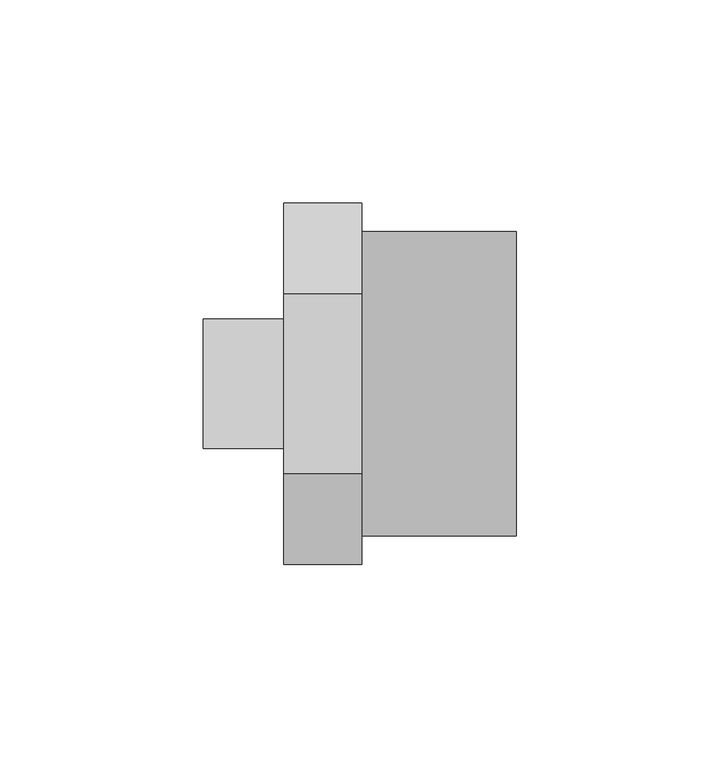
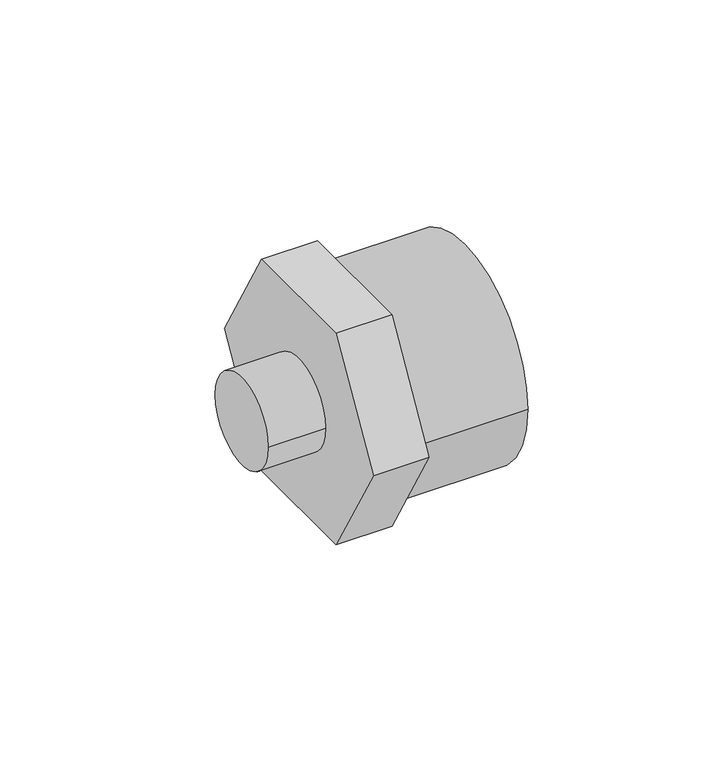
"""IFC4 building model written with IfcOpenShell, lengths in millimetres: pipe fitting geometry, 01101081 : Manguitos multiplos H/M/M."""

import ifcopenshell
import ifcopenshell.guid

model = None  # the IFC model being written
_history = None  # IfcOwnerHistory: only IFC2X3 demands one
_inside = {}  # id of a spatial element -> (the spatial element, [elements in it])
_under = {}  # id of a project, library or spatial element -> (it, [spatial elements below it])
_declared = {}  # id of a project -> (the project, [libraries it declares])
_typed = {}  # id of a type object -> (the type object, [elements of that type])
_made_of = {}  # id of a material, layer set ... -> (it, [elements and type objects made of it])


def new_model(schema):
    """Start an empty IFC model of exactly this schema.

    Asked for "IFC4X3", IfcOpenShell would pick the latest addendum, in which some entities
    have other attributes; the version numbers below select the first issue.
    IFC2X3 requires an IfcOwnerHistory on every rooted entity: one is made here for all.
    """
    global model, _history
    if schema == "IFC4X3":
        model = ifcopenshell.file(schema_version=(4, 3, 0, 0))
    else:
        model = ifcopenshell.file(schema=schema)
    _inside.clear()
    _under.clear()
    _declared.clear()
    _typed.clear()
    _made_of.clear()
    _history = None
    if model.schema == "IFC2X3":
        org = make("IfcOrganization", Name="unknown")
        user = make(
            "IfcPersonAndOrganization",
            ThePerson=make("IfcPerson", FamilyName="unknown"),
            TheOrganization=org,
        )
        app = make(
            "IfcApplication",
            ApplicationDeveloper=org,
            Version="unknown",
            ApplicationFullName="unknown",
            ApplicationIdentifier="unknown",
        )
        _history = make(
            "IfcOwnerHistory",
            OwningUser=user,
            OwningApplication=app,
            ChangeAction="ADDED",
            CreationDate=0,
        )
    return model


def make(cls, **values):
    """One entity of the class cls with the attributes given. An attribute that is None is left unset."""
    return model.create_entity(
        cls, **{name: value for name, value in values.items() if value is not None}
    )


def rooted(cls, **values):
    """An entity with a GlobalId (a new one), such as an element, a storey or a relation."""
    return make(cls, GlobalId=ifcopenshell.guid.new(), OwnerHistory=_history, **values)


def si_unit(unit_type, name, prefix=None):
    """IfcSIUnit, for example si_unit("LENGTHUNIT", "METRE", prefix="MILLI")."""
    return make("IfcSIUnit", UnitType=unit_type, Prefix=prefix, Name=name)


def assignment(units):
    """IfcUnitAssignment: the units of a project."""
    return None if units is None else make("IfcUnitAssignment", Units=units)


def point(xyz):
    """IfcCartesianPoint."""
    return None if xyz is None else make("IfcCartesianPoint", Coordinates=xyz)


def direction(xyz):
    """IfcDirection."""
    return None if xyz is None else make("IfcDirection", DirectionRatios=xyz)


def frame(location, z_axis=None, x_axis=None):
    """IfcAxis2Placement3D, a coordinate frame: its origin and axes. An axis left out is left unset."""
    return make(
        "IfcAxis2Placement3D",
        Location=point(location),
        Axis=direction(z_axis),
        RefDirection=direction(x_axis),
    )


def frame_2d(location, x_axis=None):
    """IfcAxis2Placement2D, a coordinate frame in the plane: its origin and x axis."""
    return make(
        "IfcAxis2Placement2D", Location=point(location), RefDirection=direction(x_axis)
    )


def origin():
    """The frame at (0, 0, 0) with its axes left unset."""
    return frame((0.0, 0.0, 0.0))


def origin_2d():
    """The frame at (0, 0) in the plane with its x axis left unset."""
    return frame_2d((0.0, 0.0))


def place(relative_to, where):
    """IfcLocalPlacement: puts the frame where relative to a parent placement (None: the world)."""
    return make(
        "IfcLocalPlacement", PlacementRelTo=relative_to, RelativePlacement=where
    )


def context(
    kind, dimensions, precision=None, world=None, true_north=None, identifier=None
):
    """IfcGeometricRepresentationContext, for example the 3D "Model" context."""
    return make(
        "IfcGeometricRepresentationContext",
        ContextIdentifier=identifier,
        ContextType=kind,
        CoordinateSpaceDimension=dimensions,
        Precision=precision,
        WorldCoordinateSystem=world,
        TrueNorth=true_north,
    )


def project(units=None, contexts=None):
    """IfcProject with its units and contexts."""
    return rooted(
        "IfcProject",
        Name="project",
        RepresentationContexts=contexts,
        UnitsInContext=assignment(units),
    )


def spatial(cls, under=None, at=None, **own):
    """A site, building, storey or space (cls), placed at a placement, below another one or the project."""
    s = rooted(cls, ObjectPlacement=at, **own)
    if under is not None:
        _under.setdefault(under.id(), (under, []))[1].append(s)
    return s


def polyline(points):
    """IfcPolyline through the points."""
    return make("IfcPolyline", Points=[point(p) for p in points])


def circle_curve(where, radius):
    """IfcCircle in the frame where."""
    return make("IfcCircle", Position=where, Radius=radius)


def trimmed(basis, trim1, trim2, sense, master):
    """IfcTrimmedCurve: the piece of a basis curve between two trims."""
    return make(
        "IfcTrimmedCurve",
        BasisCurve=basis,
        Trim1=trim1,
        Trim2=trim2,
        SenseAgreement=sense,
        MasterRepresentation=master,
    )


def segment(curve, same_sense, transition):
    """IfcCompositeCurveSegment."""
    return make(
        "IfcCompositeCurveSegment",
        Transition=transition,
        SameSense=same_sense,
        ParentCurve=curve,
    )


def composite_curve(segments, self_intersect=None):
    """IfcCompositeCurve: segments joined end to end."""
    return make("IfcCompositeCurve", Segments=segments, SelfIntersect=self_intersect)


def outline(outer, holes=None, kind="AREA"):
    """IfcArbitraryClosedProfileDef: a profile drawn as a closed curve; with holes, ...WithVoids."""
    if holes is None:
        return make("IfcArbitraryClosedProfileDef", ProfileType=kind, OuterCurve=outer)
    return make(
        "IfcArbitraryProfileDefWithVoids",
        ProfileType=kind,
        OuterCurve=outer,
        InnerCurves=holes,
    )


def extrude(swept, where, along, depth):
    """IfcExtrudedAreaSolid: the profile swept, set in the frame where, extruded along a direction by depth."""
    return make(
        "IfcExtrudedAreaSolid",
        SweptArea=swept,
        Position=where,
        ExtrudedDirection=direction(along),
        Depth=depth,
    )


def shape(context_of_items, identifier, shape_type, items):
    """IfcShapeRepresentation: the items that make up one representation, for example the "Body"."""
    return make(
        "IfcShapeRepresentation",
        ContextOfItems=context_of_items,
        RepresentationIdentifier=identifier,
        RepresentationType=shape_type,
        Items=items,
    )


def source(mapping_origin, context_of_items, identifier, shape_type, items):
    """IfcRepresentationMap: a shape defined once, which mapped items show again and again."""
    return make(
        "IfcRepresentationMap",
        MappingOrigin=mapping_origin,
        MappedRepresentation=shape(context_of_items, identifier, shape_type, items),
    )


def transform(
    local_origin,
    x_axis=None,
    y_axis=None,
    z_axis=None,
    scale=None,
    scale2=None,
    scale3=None,
    uniform=True,
):
    """IfcCartesianTransformationOperator3D, or its non-uniform kind. x_axis, y_axis, z_axis: its Axis1, 2, 3."""
    if uniform:
        return make(
            "IfcCartesianTransformationOperator3D",
            Axis1=direction(x_axis),
            Axis2=direction(y_axis),
            LocalOrigin=point(local_origin),
            Scale=scale,
            Axis3=direction(z_axis),
        )
    return make(
        "IfcCartesianTransformationOperator3DnonUniform",
        Axis1=direction(x_axis),
        Axis2=direction(y_axis),
        LocalOrigin=point(local_origin),
        Scale=scale,
        Axis3=direction(z_axis),
        Scale2=scale2,
        Scale3=scale3,
    )


def mapped(mapping_source, mapping_target):
    """IfcMappedItem: shows the shape of a source again, moved by a transform."""
    return make(
        "IfcMappedItem", MappingSource=mapping_source, MappingTarget=mapping_target
    )


def made_of(thing, what):
    """Note that an element or type object is made of a material, layer set ...; save() writes the relation."""
    if what is not None:
        _made_of.setdefault(what.id(), (what, []))[1].append(thing)
    return thing


def element(
    cls,
    number,
    at=None,
    inside=None,
    cuts=None,
    type_object=None,
    material=None,
    context=None,
    identifier="Body",
    shape_type=None,
    held_by="IfcProductDefinitionShape",
    body=None,
    shapes=None,
    **own,
):
    """One element of the class cls, such as IfcWall. Its Tag is "e" and its number.

    at: its placement. inside: the storey or other place that contains it. cuts: it is an
    opening in that element (IfcRelVoidsElement). A single representation is given by context,
    identifier, shape_type and body (its items); several are given by shapes. held_by: the class
    of the entity that holds the representations. save() writes the other relations.
    """
    e = rooted(cls, Tag="e%d" % number, ObjectPlacement=at, **own)
    if body is not None:
        shapes = [shape(context, identifier, shape_type, body)]
    if shapes is not None:
        e.Representation = make(held_by, Representations=shapes)
    if inside is not None:
        _inside.setdefault(inside.id(), (inside, []))[1].append(e)
    if cuts is not None:
        rooted(
            "IfcRelVoidsElement", RelatingBuildingElement=cuts, RelatedOpeningElement=e
        )
    if type_object is not None:
        _typed.setdefault(type_object.id(), (type_object, []))[1].append(e)
    return made_of(e, material)


def aggregate(whole, parts):
    """IfcRelAggregates: a whole, such as a stair, and the parts it consists of."""
    return rooted("IfcRelAggregates", RelatingObject=whole, RelatedObjects=parts)


def save(model, path):
    """Write the relations noted so far, then the file.

    IfcRelAggregates (storeys below a building ...), IfcRelContainedInSpatialStructure (elements
    in a storey), IfcRelDefinesByType, IfcRelAssociatesMaterial and IfcRelDeclares: one each for
    every whole, place, type object, material and project.
    """
    for whole, parts in _under.values():
        aggregate(whole, parts)
    for where, things in _inside.values():
        rooted(
            "IfcRelContainedInSpatialStructure",
            RelatedElements=things,
            RelatingStructure=where,
        )
    for kind, things in _typed.values():
        rooted("IfcRelDefinesByType", RelatedObjects=things, RelatingType=kind)
    for what, things in _made_of.values():
        rooted("IfcRelAssociatesMaterial", RelatedObjects=things, RelatingMaterial=what)
    for by, libraries in _declared.values():
        rooted("IfcRelDeclares", RelatingContext=by, RelatedDefinitions=libraries)
    model.write(path)


def pipe_fitting_0b25564a(model_context):
    return source(origin(), model_context, "Body", "SweptSolid", [
        extrude(outline(composite_curve([segment(trimmed(circle_curve(origin_2d(), 15.875), [point((15.875, 0.0))], [point((-15.875, 0.0))], False, "CARTESIAN"), True, "CONTINUOUS"), segment(trimmed(circle_curve(origin_2d(), 15.875), [point((-15.875, 0.0))], [point((15.875, 0.0))], False, "CARTESIAN"), True, "CONTINUOUS")], self_intersect=False)), frame((0.0, 0.0, 0.0), z_axis=(1.0, 0.0, 0.0), x_axis=(0.0, 1.0, 0.0)), (0.0, 0.0, 1.0), 19.75),
        extrude(outline(polyline([(-22.2279854, 38.5), (22.2279854, 38.5), (44.4559707, 0.0), (22.2279854, -38.5), (-22.2279854, -38.5), (-44.4559707, 0.0), (-22.2279854, 38.5)])), frame((19.75, 0.0, 0.0), z_axis=(1.0, 0.0, 0.0), x_axis=(0.0, 1.0, 0.0)), (0.0, 0.0, 1.0), 19.25),
        extrude(outline(composite_curve([segment(trimmed(circle_curve(origin_2d(), 37.5), [point((-37.5, 0.0))], [point((37.5, 0.0))], False, "CARTESIAN"), True, "CONTINUOUS"), segment(trimmed(circle_curve(origin_2d(), 37.5), [point((37.5, 0.0))], [point((-37.5, 0.0))], False, "CARTESIAN"), True, "CONTINUOUS")], self_intersect=False)), frame((39.0, 0.0, 0.0), z_axis=(1.0, 0.0, 0.0), x_axis=(0.0, 1.0, 0.0)), (0.0, 0.0, 1.0), 38.0),
    ])


if __name__ == "__main__":
    model = new_model("IFC4")
    model_context = context("Model", 3, world=origin())
    ifc_project = project(units=[si_unit("LENGTHUNIT", "METRE", prefix="MILLI")], contexts=[model_context])
    site = spatial("IfcSite", under=ifc_project)
    building = spatial("IfcBuilding", under=site)
    placement = place(None, origin())
    pipe_fitting_shape = pipe_fitting_0b25564a(model_context)
    element("IfcPipeFitting", 1, ObjectType="01101081 : Manguitos multiplos H/M/M", at=placement, inside=building, context=model_context, shape_type="MappedRepresentation", body=[
        mapped(pipe_fitting_shape, transform((0.0, 0.0, 0.0), x_axis=(1.0, 0.0, 0.0), y_axis=(0.0, 1.0, 0.0), z_axis=(0.0, 0.0, 1.0))),
    ])
    save(model, "model.ifc")
